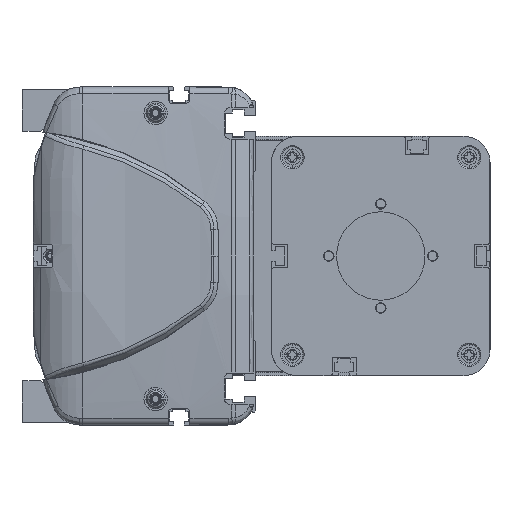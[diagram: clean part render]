
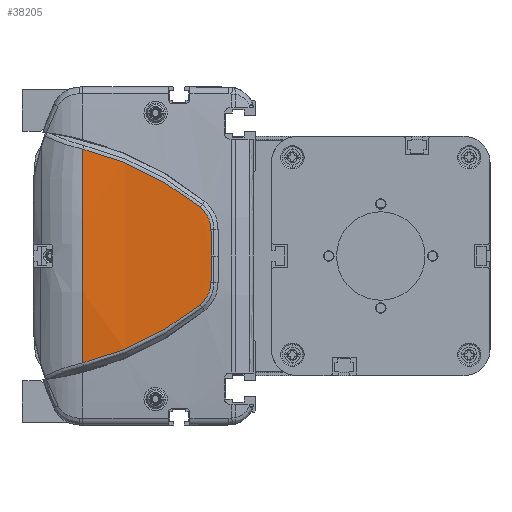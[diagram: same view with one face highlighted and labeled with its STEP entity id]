
A CAD part, left-side view. The second image highlights one B-rep face of the part: STEP entity #38205.
In plain terms, the highlighted cylindrical face has radius 500 mm (diameter 1000 mm), a partial arc.
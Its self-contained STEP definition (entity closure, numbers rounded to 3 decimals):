
#12211=CARTESIAN_POINT('',(-613.648,21.913,
-18.759));
#12212=CARTESIAN_POINT('',(-613.449,28.504,
-24.058));
#12213=CARTESIAN_POINT('',(-612.934,42.795,
-33.27));
#12214=CARTESIAN_POINT('',(-612.471,58.756,
-39.127));
#12215=CARTESIAN_POINT('',(-612.306,66.962,
-41.121));
#12217=CARTESIAN_POINT('',(-612.306,66.962,
41.121));
#12218=CARTESIAN_POINT('',(-612.471,58.756,
39.127));
#12219=CARTESIAN_POINT('',(-612.934,42.795,
33.27));
#12220=CARTESIAN_POINT('',(-613.449,28.504,
24.058));
#12221=CARTESIAN_POINT('',(-613.648,21.913,
18.759));
#12223=CARTESIAN_POINT('',(-613.648,21.913,
18.759));
#12224=CARTESIAN_POINT('',(-613.686,20.635,
17.736));
#12225=CARTESIAN_POINT('',(-613.779,18.536,
15.107));
#12226=CARTESIAN_POINT('',(-613.863,17.752,
11.827));
#12227=CARTESIAN_POINT('',(-613.896,17.724,
10.178));
#12229=CARTESIAN_POINT('',(-613.896,17.724,
10.178));
#12230=CARTESIAN_POINT('',(-613.92,17.707,
9.022));
#12231=CARTESIAN_POINT('',(-613.959,17.667,
6.727));
#12232=CARTESIAN_POINT('',(-613.993,17.579,
3.332));
#12233=CARTESIAN_POINT('',(-614.,17.498,
1.105));
#12234=CARTESIAN_POINT('',(-614.,17.449,
0.));
#12236=CARTESIAN_POINT('',(-614.,17.449,
0.));
#12237=CARTESIAN_POINT('',(-614.,17.498,
-1.105));
#12238=CARTESIAN_POINT('',(-613.993,17.579,
-3.333));
#12239=CARTESIAN_POINT('',(-613.959,17.667,
-6.726));
#12240=CARTESIAN_POINT('',(-613.92,17.707,
-9.024));
#12241=CARTESIAN_POINT('',(-613.896,17.724,
-10.18));
#12243=CARTESIAN_POINT('',(-613.896,17.724,
-10.18));
#12244=CARTESIAN_POINT('',(-613.863,17.752,
-11.828));
#12245=CARTESIAN_POINT('',(-613.779,18.537,
-15.109));
#12246=CARTESIAN_POINT('',(-613.686,20.635,
-17.736));
#12247=CARTESIAN_POINT('',(-613.648,21.913,
-18.759));
#12528=CARTESIAN_POINT('',(-114.,66.962,0.));
#12529=DIRECTION('',(0.,-1.,0.));
#12530=DIRECTION('',(-0.997,0.,0.082));
#12531=AXIS2_PLACEMENT_3D('',#12528,#12529,#12530);
#18203=VERTEX_POINT('',#12211);
#18204=VERTEX_POINT('',#12215);
#18205=CARTESIAN_POINT('',(-612.306,66.962,
41.121));
#18206=VERTEX_POINT('',#18205);
#18207=VERTEX_POINT('',#12221);
#18208=VERTEX_POINT('',#12227);
#18209=VERTEX_POINT('',#12234);
#18210=VERTEX_POINT('',#12241);
#38185=CARTESIAN_POINT('',(-114.,8.606,0.));
#38186=DIRECTION('',(0.,1.,0.));
#38187=DIRECTION('',(1.,0.,0.));
#38188=AXIS2_PLACEMENT_3D('',#38185,#38186,#38187);
#38189=CYLINDRICAL_SURFACE('',#38188,500.);
#38191=ORIENTED_EDGE('',*,*,#38190,.T.);
#38193=ORIENTED_EDGE('',*,*,#38192,.F.);
#38194=ORIENTED_EDGE('',*,*,#38176,.T.);
#38196=ORIENTED_EDGE('',*,*,#38195,.T.);
#38198=ORIENTED_EDGE('',*,*,#38197,.T.);
#38200=ORIENTED_EDGE('',*,*,#38199,.T.);
#38202=ORIENTED_EDGE('',*,*,#38201,.T.);
#38203=EDGE_LOOP('',(#38191,#38193,#38194,#38196,#38198,#38200,#38202));
#38204=FACE_OUTER_BOUND('',#38203,.F.);
#38205=ADVANCED_FACE('',(#38204),#38189,.T.);
#12216=B_SPLINE_CURVE_WITH_KNOTS('',3,(#12211,#12212,#12213,#12214,#12215),
.UNSPECIFIED.,.F.,.F.,(4,1,4),(0.,0.5,1.),.UNSPECIFIED.);
#12222=B_SPLINE_CURVE_WITH_KNOTS('',3,(#12217,#12218,#12219,#12220,#12221),
.UNSPECIFIED.,.F.,.F.,(4,1,4),(0.,0.5,1.),.UNSPECIFIED.);
#12228=B_SPLINE_CURVE_WITH_KNOTS('',3,(#12223,#12224,#12225,#12226,#12227),
.UNSPECIFIED.,.F.,.F.,(4,1,4),(0.,0.5,1.),.UNSPECIFIED.);
#12235=B_SPLINE_CURVE_WITH_KNOTS('',3,(#12229,#12230,#12231,#12232,#12233,
#12234),.UNSPECIFIED.,.F.,.F.,(4,1,1,4),(0.,0.333,
0.667,1.),.UNSPECIFIED.);
#12242=B_SPLINE_CURVE_WITH_KNOTS('',3,(#12236,#12237,#12238,#12239,#12240,
#12241),.UNSPECIFIED.,.F.,.F.,(4,1,1,4),(0.,0.333,
0.667,1.),.UNSPECIFIED.);
#12248=B_SPLINE_CURVE_WITH_KNOTS('',3,(#12243,#12244,#12245,#12246,#12247),
.UNSPECIFIED.,.F.,.F.,(4,1,4),(0.,0.5,1.),.UNSPECIFIED.);
#12532=CIRCLE('',#12531,500.);
#38176=EDGE_CURVE('',#18206,#18207,#12222,.T.);
#38190=EDGE_CURVE('',#18203,#18204,#12216,.T.);
#38192=EDGE_CURVE('',#18206,#18204,#12532,.T.);
#38195=EDGE_CURVE('',#18207,#18208,#12228,.T.);
#38197=EDGE_CURVE('',#18208,#18209,#12235,.T.);
#38199=EDGE_CURVE('',#18209,#18210,#12242,.T.);
#38201=EDGE_CURVE('',#18210,#18203,#12248,.T.);
